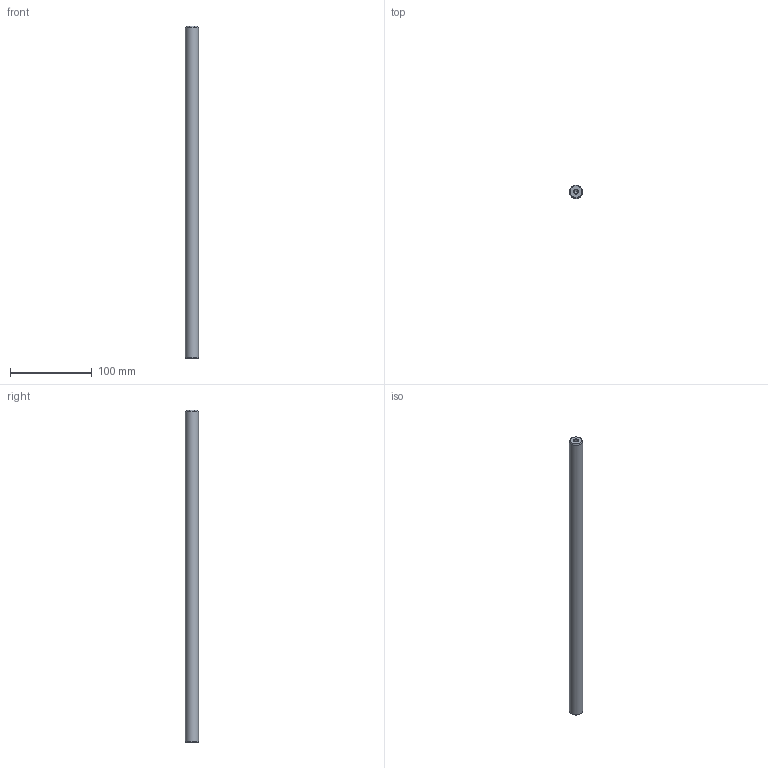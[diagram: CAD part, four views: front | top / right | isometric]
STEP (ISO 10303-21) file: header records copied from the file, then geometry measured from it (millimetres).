
FILE_DESCRIPTION( ( 'STEP AP214' ), '1' );
FILE_NAME( 'U:/Etudes/Top Solid/BIBLIO_Fournisseur/Colonnes UG/Ø16x407.step', '2004-12-22T12:38:20', ( ' ' ), ( ' ' ), 'XStep 1.0', ' ', ' ' );
FILE_SCHEMA( ( 'automotive_design' ) );
Length unit declared in the file: metre
Products named in the file (1): 1
Bounding box: 16 x 16 x 407 mm (x, y, z)
Volume: 81175.8 mm3; surface area: 21290.1 mm2
Topology: 1 solids, 1 shells, 13 faces, 27 edges, 16 vertices
Faces by surface type: cone 6, cylinder 5, plane 2
Full cylindrical faces by diameter (mm): 4.918 x4, 16 x1
Entity records: 382 total; most frequent: DIRECTION 52, CARTESIAN_POINT 40, AXIS2_PLACEMENT_3D 26, EDGE_LOOP 24, ORIENTED_EDGE 24, FACE_OUTER_BOUND 18, VERTEX_POINT 14, STYLED_ITEM 13
